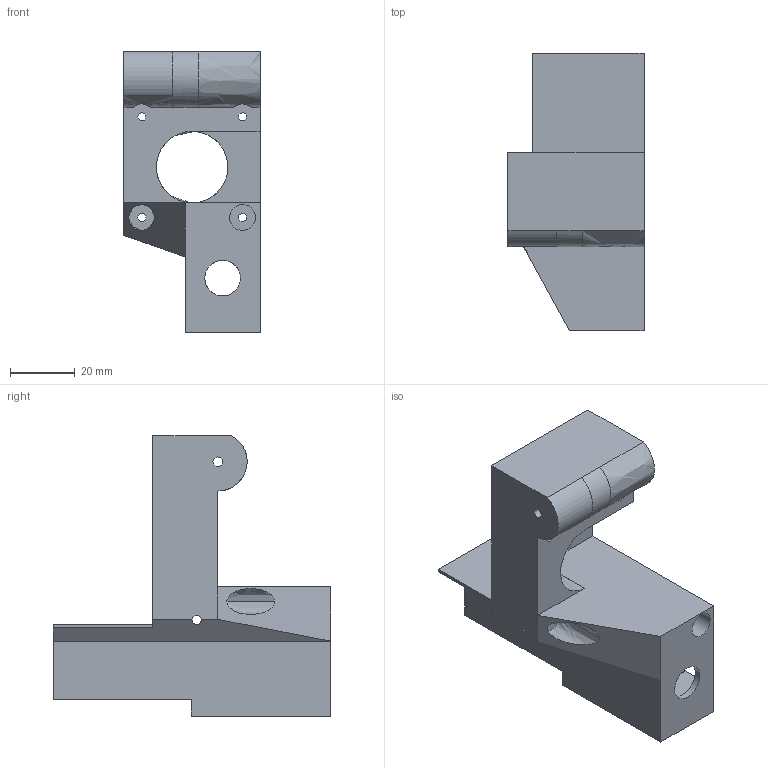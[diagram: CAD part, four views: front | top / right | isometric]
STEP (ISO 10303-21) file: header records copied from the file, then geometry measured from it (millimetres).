
FILE_DESCRIPTION(/* description */ (''),/* implementation_level */ '2;1');
FILE_NAME(/* name */ 'URTCLI~1',/* time_stamp */ '2019-04-01T20:09:55-03:00',/* author */ (''),/* organization */ (''),/* preprocessor_version */ 'ST-DEVELOPER v16.5',/* originating_system */ '',/* authorisation */ '');
FILE_SCHEMA (('AUTOMOTIVE_DESIGN'));
Length unit declared in the file: millimetre
Products named in the file (1): Document
Bounding box: 41.89 x 85.4 x 86.31 mm (x, y, z)
Volume: 81478.6 mm3; surface area: 27254.8 mm2
Topology: 1 solids, 1 shells, 96 faces, 256 edges, 167 vertices
Faces by surface type: plane 48, bspline 48
Entity records: 3244 total; most frequent: CARTESIAN_POINT 1676, ORIENTED_EDGE 512, EDGE_CURVE 256, VERTEX_POINT 167, EDGE_LOOP 127, B_SPLINE_CURVE_WITH_KNOTS 114, ADVANCED_FACE 96, FACE_OUTER_BOUND 96
